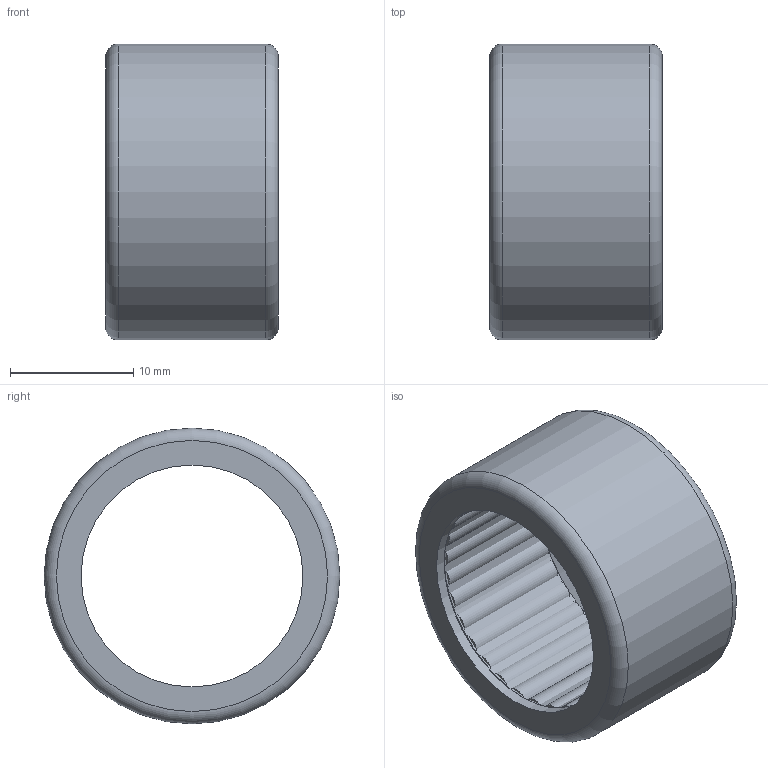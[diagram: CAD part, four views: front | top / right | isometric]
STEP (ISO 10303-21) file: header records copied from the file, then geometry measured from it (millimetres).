
FILE_DESCRIPTION(/* description */ (''),/* implementation_level */ '2;1');
FILE_NAME(/* name */ 'C:\Users\OUREHANEKD\Desktop\Ihlove loziska\HK-RS\HK-RS--\HK1814-RS.stp',/* time_stamp */ '2016-10-07T10:37:21+02:00',/* author */ ('OUREHANEKD'),/* organization */ (''),/* preprocessor_version */ 'ST-DEVELOPER v15.6',/* originating_system */ 'Autodesk Inventor 2015',/* authorisation */ '');
FILE_SCHEMA (('AUTOMOTIVE_DESIGN { 1 0 10303 214 3 1 1 }'));
Length unit declared in the file: millimetre
Products named in the file (4): HK1814-RS-01; HK1814-RS-kl; HK1814-RS-ihla; HK1814-RS
Assembly tree (32 placements, depth 2):
  HK1814-RS
    HK1814-RS-01
    HK1814-RS-kl
    HK1814-RS-ihla  x30
Bounding box: 14 x 24 x 24 mm (x, y, z)
Volume: 3454.6 mm3; surface area: 6555.4 mm2
Topology: 32 solids, 32 shells, 105 faces, 114 edges, 75 vertices
Faces by surface type: plane 66, cylinder 36, torus 2, cone 1
Full cylindrical faces by diameter (mm): 2.136 x30, 18 x2, 18.5 x1, 21.772 x1, 22.272 x1, 24 x1
Entity records: 680 total; most frequent: DIRECTION 142, CARTESIAN_POINT 88, AXIS2_PLACEMENT_3D 71, PRODUCT_DEFINITION_SHAPE 36, EDGE_LOOP 34, ORIENTED_EDGE 34, ITEM_DEFINED_TRANSFORMATION 32, CONTEXT_DEPENDENT_SHAPE_REPRESENTATION 32
